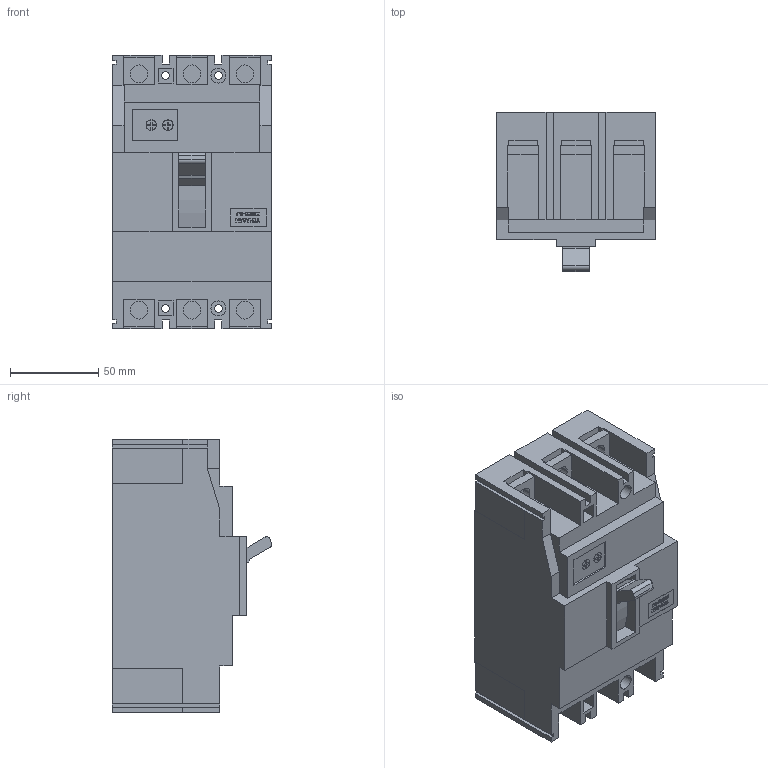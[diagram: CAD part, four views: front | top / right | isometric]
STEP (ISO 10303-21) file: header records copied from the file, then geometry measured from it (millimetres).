
FILE_DESCRIPTION((''),'2;1');
FILE_NAME('ZS125GJ350','2012-09-20T',('cmahecha'),(''),'PRO/ENGINEER BY PARAMETRIC TECHNOLOGY CORPORATION, 2010280','PRO/ENGINEER BY PARAMETRIC TECHNOLOGY CORPORATION, 2010280','');
FILE_SCHEMA(('CONFIG_CONTROL_DESIGN'));
Length unit declared in the file: millimetre
Products named in the file (1): ZS125GJ350
Bounding box: 90 x 90.39 x 155 mm (x, y, z)
Volume: 843550 mm3; surface area: 81616.3 mm2
Topology: 1 solids, 1 shells, 615 faces, 1721 edges, 1142 vertices
Faces by surface type: plane 579, cylinder 36
Entity records: 19477 total; most frequent: CARTESIAN_POINT 3478, ORIENTED_EDGE 3442, DIRECTION 3023, EDGE_CURVE 1721, VECTOR 1649, LINE 1649, VERTEX_POINT 1142, AXIS2_PLACEMENT_3D 687
